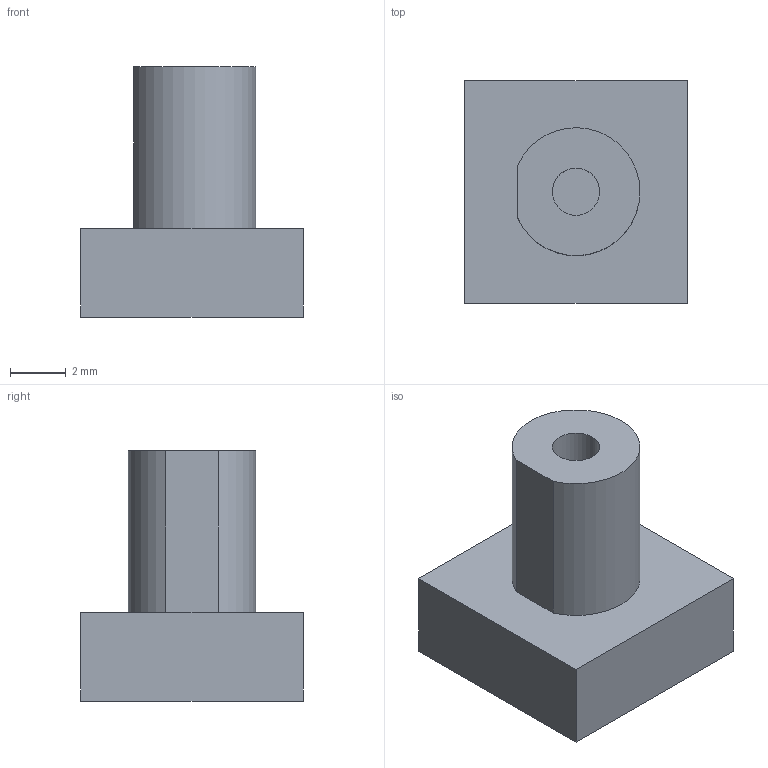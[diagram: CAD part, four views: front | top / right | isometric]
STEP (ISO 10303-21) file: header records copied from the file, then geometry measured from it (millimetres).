
FILE_DESCRIPTION(('Open CASCADE Model'),'2;1');
FILE_NAME('Open CASCADE Shape Model','2026-09-15T13:37:42',('Author'),( 'Open CASCADE'),'Open CASCADE STEP processor 7.7','Open CASCADE 7.7' ,'Unknown');
FILE_SCHEMA(('AUTOMOTIVE_DESIGN { 1 0 10303 214 1 1 1 1 }'));
Length unit declared in the file: millimetre
Products named in the file (1): Open CASCADE STEP translator 7.7 4
Bounding box: 8 x 8 x 9 mm (x, y, z)
Volume: 289.3 mm3; surface area: 338.5 mm2
Topology: 1 solids, 1 shells, 11 faces, 21 edges, 14 vertices
Faces by surface type: plane 9, cylinder 2
Full cylindrical faces by diameter (mm): 1.7 x1
Entity records: 560 total; most frequent: CARTESIAN_POINT 109, DIRECTION 81, LINE 47, VECTOR 47, ORIENTED_EDGE 42, PCURVE 42, DEFINITIONAL_REPRESENTATION 42, EDGE_CURVE 21
